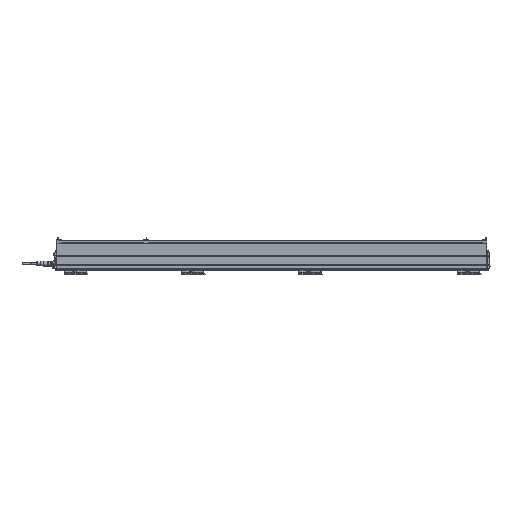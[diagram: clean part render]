
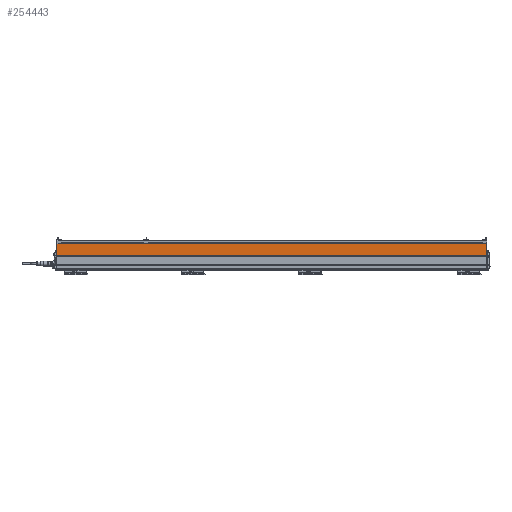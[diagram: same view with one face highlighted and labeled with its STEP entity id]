
A CAD part, front view. The second image highlights one B-rep face of the part: STEP entity #254443.
In plain terms, the highlighted planar face has unit normal (0, -1, 0) as drawn and (0, 1, 0) by its records, which use the part's own axes.
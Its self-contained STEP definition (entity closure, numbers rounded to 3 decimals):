
#89379=ORIENTED_EDGE('',*,*,#127226,.F.);
#89380=ORIENTED_EDGE('',*,*,#127191,.F.);
#89381=ORIENTED_EDGE('',*,*,#127225,.F.);
#89382=ORIENTED_EDGE('',*,*,#127130,.F.);
#109217=VECTOR('',#146755,1.);
#109244=VECTOR('',#146856,1.);
#109274=VECTOR('',#146950,1.);
#109275=VECTOR('',#146953,1.);
#114924=LINE('',#167367,#109217);
#114951=LINE('',#167490,#109244);
#114981=LINE('',#167556,#109274);
#114982=LINE('',#167558,#109275);
#120642=VERTEX_POINT('',#167364);
#120643=VERTEX_POINT('',#167366);
#120701=VERTEX_POINT('',#167487);
#120702=VERTEX_POINT('',#167489);
#127130=EDGE_CURVE('',#120642,#120643,#114924,.T.);
#127191=EDGE_CURVE('',#120701,#120702,#114951,.T.);
#127225=EDGE_CURVE('',#120643,#120701,#114981,.T.);
#127226=EDGE_CURVE('',#120702,#120642,#114982,.T.);
#137176=EDGE_LOOP('',(#89379,#89380,#89381,#89382));
#141866=FACE_BOUND('',#137176,.T.);
#146755=DIRECTION('',(36.287,0.,0.));
#146856=DIRECTION('',(-36.287,0.,0.));
#146950=DIRECTION('',(0.,0.,1285.));
#146951=DIRECTION('',(0.,1.,0.));
#146952=DIRECTION('',(1.,0.,0.));
#146953=DIRECTION('',(0.,0.,-1285.));
#167364=CARTESIAN_POINT('',(-29.322,15.,-1160.));
#167366=CARTESIAN_POINT('',(6.965,15.,-1160.));
#167367=CARTESIAN_POINT('',(-29.322,15.,-1160.));
#167487=CARTESIAN_POINT('',(6.965,15.,125.));
#167489=CARTESIAN_POINT('',(-29.322,15.,125.));
#167490=CARTESIAN_POINT('',(6.965,15.,125.));
#167556=CARTESIAN_POINT('',(6.965,15.,-1160.));
#167557=CARTESIAN_POINT('',(-29.322,15.,125.));
#167558=CARTESIAN_POINT('',(-29.322,15.,125.));
#245261=AXIS2_PLACEMENT_3D('',#167557,#146951,#146952);
#252593=PLANE('',#245261);
#254443=ADVANCED_FACE('',(#141866),#252593,.T.);
